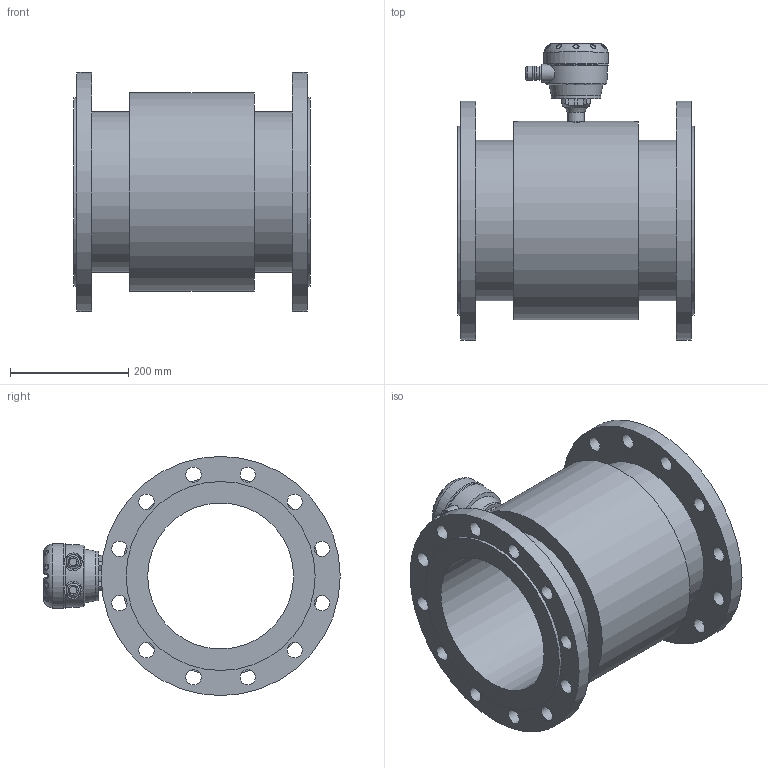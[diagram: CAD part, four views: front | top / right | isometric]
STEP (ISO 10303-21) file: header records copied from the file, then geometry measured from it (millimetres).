
FILE_DESCRIPTION (( 'STEP AP203' ), '1' );
FILE_NAME ('KROHNE_OPTIFLUX_2-4000W_DIN2633_DN250_PN16.STEP', '2011-04-26T11:24:30', ( '' ), ( '' ), 'SwSTEP 2.0', 'SolidWorks 2010', '' );
FILE_SCHEMA (( 'CONFIG_CONTROL_DESIGN' ));
Length unit declared in the file: millimetre
Products named in the file (1): KROHNE_OPTIFLUX_2-4000W_DIN2633_DN250_PN16
Bounding box: 400 x 501.99 x 405 mm (x, y, z)
Volume: 14736965.3 mm3; surface area: 1207882.1 mm2
Topology: 14 solids, 14 shells, 351 faces, 869 edges, 568 vertices
Faces by surface type: plane 158, cylinder 101, bspline 53, torus 18, sphere 13, cone 8
Full cylindrical faces by diameter (mm): 4 x4, 6.6 x8, 13 x2, 20 x2, 23.5 x4, 26 x24, 29 x1, 30 x2, 84 x2, 109 x1, 247 x1, 272 x2, 320 x2, 336 x1, 405 x2
Entity records: 14264 total; most frequent: CARTESIAN_POINT 6539, ORIENTED_EDGE 1494, DIRECTION 1461, EDGE_CURVE 747, AXIS2_PLACEMENT_3D 549, EDGE_LOOP 534, VERTEX_POINT 531, FACE_OUTER_BOUND 426
